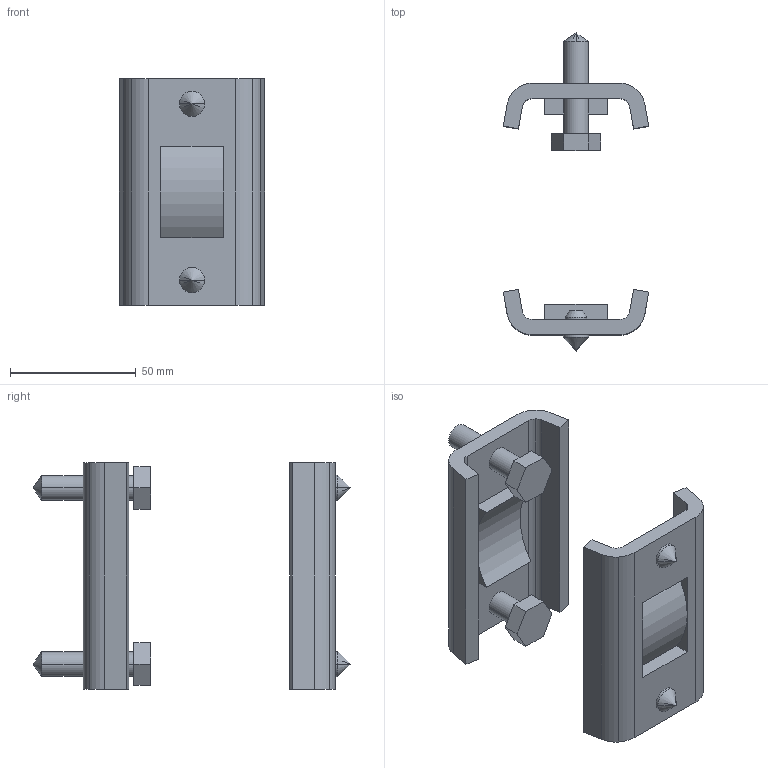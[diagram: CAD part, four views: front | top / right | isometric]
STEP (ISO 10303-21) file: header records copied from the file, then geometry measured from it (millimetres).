
FILE_DESCRIPTION(('TurboCAD Mac Pro'),'Build 980');
FILE_NAME('P3088.stp',' ',(''),(''),'ACIS Interop','IMSI','TurboCAD Mac Pro BY IMSI, INCORPORATED');
FILE_SCHEMA(('automotive_design'));
Length unit declared in the file: inch
Products named in the file (2): 2; 1
Bounding box: 57.75 x 126.3 x 90 mm (x, y, z)
Volume: 89875.6 mm3; surface area: 35098.9 mm2
Topology: 2 solids, 2 shells, 103 faces, 254 edges, 158 vertices
Faces by surface type: plane 56, cylinder 35, cone 12
Entity records: 3859 total; most frequent: DIRECTION 540, CARTESIAN_POINT 509, ORIENTED_EDGE 496, EDGE_CURVE 246, AXIS2_PLACEMENT_3D 189, LINE 162, VECTOR 162, VERTEX_POINT 158
